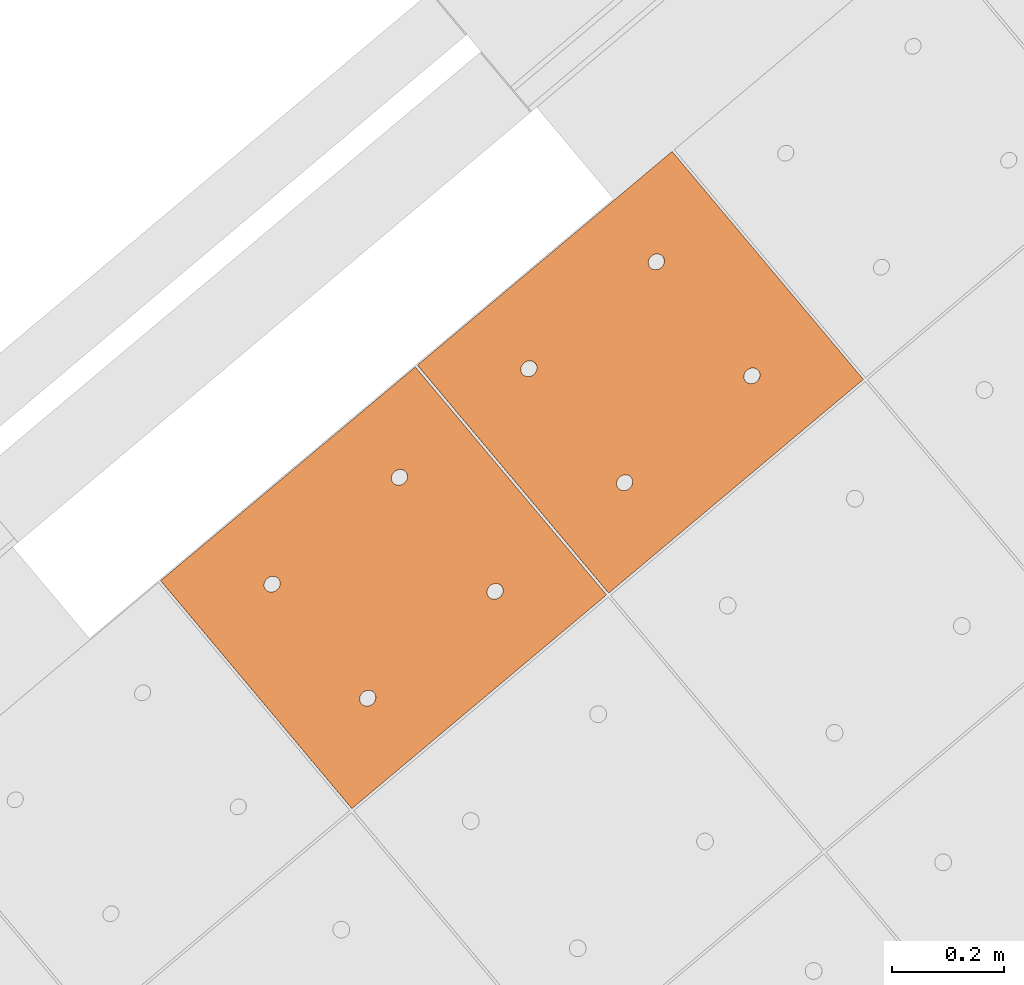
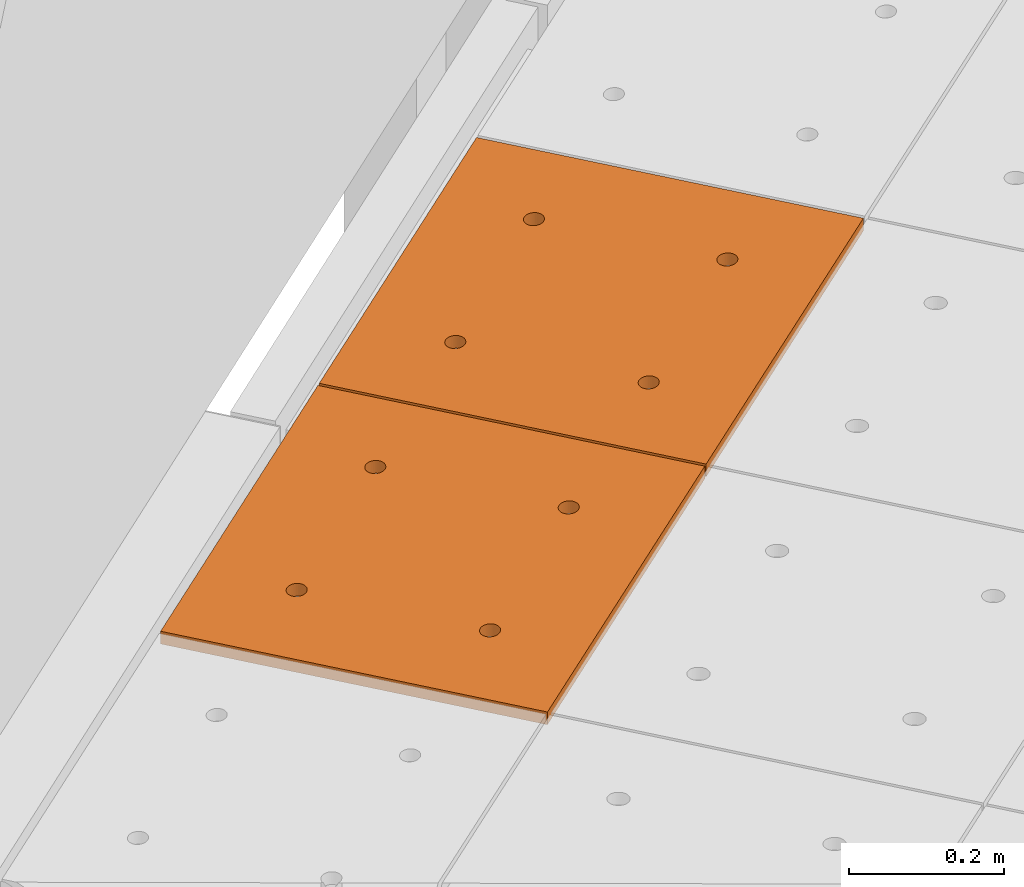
# One storey, part 165 of 338: 2 proxies, 1 element without a shape of its own.
"""IFC2X3 building model written with IfcOpenShell, lengths in millimetres."""

from ifc_helpers import new_model, entity, si_unit, converted_unit, derived_unit, money_unit, direction, frame, origin_with_axes, place, context, subcontext, project, spatial, faceted_brep, source, transform, mapped, material, type_object, type_shapes, element, aggregate, save


model = new_model("IFC2X3")

# Units and contexts
model_context = context("Model", 3, precision=0.01, world=origin_with_axes(), true_north=direction((0.0, 1.0)))
plan_context = context("Plan", 3, precision=0.01, world=origin_with_axes(), true_north=direction((0.0, 1.0)))
body_context = subcontext(model_context, "Body", "Model", "MODEL_VIEW")
ifc_project = project(units=[si_unit("LENGTHUNIT", "METRE", prefix="MILLI"), si_unit("AREAUNIT", "SQUARE_METRE"), si_unit("VOLUMEUNIT", "CUBIC_METRE"), converted_unit("PLANEANGLEUNIT", "DEGREE", entity("IfcPlaneAngleMeasure", 0.0174532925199), si_unit("PLANEANGLEUNIT", "RADIAN"), dimensions=[0, 0, 0, 0, 0, 0, 0]), money_unit("EUR"), converted_unit("TIMEUNIT", "Year", entity("IfcTimeMeasure", 31556926.0), si_unit("TIMEUNIT", "SECOND"), dimensions=[0, 0, 1, 0, 0, 0, 0]), si_unit("MASSUNIT", "GRAM", prefix="KILO"), si_unit("THERMODYNAMICTEMPERATUREUNIT", "DEGREE_CELSIUS"), si_unit("LUMINOUSINTENSITYUNIT", "LUMEN"), si_unit("ENERGYUNIT", "JOULE", prefix="MEGA"), derived_unit("THERMALCONDUCTANCEUNIT", [(si_unit("POWERUNIT", "WATT"), 1), (si_unit("LENGTHUNIT", "METRE"), -1), (si_unit("THERMODYNAMICTEMPERATUREUNIT", "KELVIN"), -1)]), derived_unit("SPECIFICHEATCAPACITYUNIT", [(si_unit("ENERGYUNIT", "JOULE"), 1), (si_unit("MASSUNIT", "GRAM", prefix="KILO"), -1), (si_unit("THERMODYNAMICTEMPERATUREUNIT", "KELVIN"), -1)]), derived_unit("MASSDENSITYUNIT", [(si_unit("MASSUNIT", "GRAM", prefix="KILO"), 1), (si_unit("VOLUMEUNIT", "CUBIC_METRE"), -1)])], contexts=[model_context, plan_context])

# Site, building, storey
site_placement = place(None, origin_with_axes())
site = spatial("IfcSite", under=ifc_project, at=site_placement, Name="Fortuinstraat Woensdrecht", CompositionType="ELEMENT")
building_placement = place(site_placement, origin_with_axes())
building = spatial("IfcBuilding", under=site, at=building_placement, Name="IKC Fortuna", CompositionType="ELEMENT")
storey_placement = place(building_placement, origin_with_axes())
storey = spatial("IfcBuildingStorey", under=building, at=storey_placement, Name="00 begane grond", CompositionType="ELEMENT", Elevation=0.0)

# Covering, proxies
covering_type = type_object("IfcCoveringType", Name="Curtain Wall Type", PredefinedType="CEILING")
covering_placement = place(storey_placement, frame((15863.124366, 4456.31398675, 4619.99995334), z_axis=(0.0, 0.0, 1.0), x_axis=(1.0, 0.0, 0.0)))
covering = element("IfcCovering", 1, at=covering_placement, inside=storey, type_object=covering_type, Name="45_Plafondafwerking_P01", PredefinedType="CEILING")
ifc_material = material(Name="Gipsplaat")
building_element_proxy_type = type_object("IfcBuildingElementProxyType", Name="Main Panel 600 x 538 x 20", PredefinedType="NOTDEFINED")
shared_shape = source(origin_with_axes(), body_context, "Body", "Brep", [
    faceted_brep([(2.49999036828, 64.9082503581, -10.0), (300.000001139, 64.9082503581, -10.0), (300.000001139, 64.9082503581, 10.0), (2.49999036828, 64.9082503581, 10.0), (2.49999036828, 331.20412675, -10.0), (2.49999036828, 597.500003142, -10.0), (300.000001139, 597.500003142, -10.0), (597.50001191, 597.500003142, -10.0), (597.50001191, 331.20412675, -10.0), (597.50001191, 64.9082503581, -10.0), (166.249996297, 465.526747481, -10.0), (165.79422887, 467.840420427, -10.0), (164.896542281, 470.048101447, -10.0), (163.58421228, 472.082711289, -10.0), (161.897113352, 473.882429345, -10.0), (159.886507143, 475.392572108, -10.0), (157.613484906, 476.567254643, -10.0), (155.147111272, 477.370784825, -10.0), (152.562325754, 477.77874779, -10.0), (149.937665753, 477.77874779, -10.0), (147.352880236, 477.370784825, -10.0), (144.8865066, 476.567254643, -10.0), (142.613484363, 475.392572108, -10.0), (140.602878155, 473.882429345, -10.0), (138.915779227, 472.082711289, -10.0), (137.603449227, 470.048101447, -10.0), (136.705762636, 467.840420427, -10.0), (136.249995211, 465.526747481, -10.0), (136.249995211, 464.352064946, -10.0), (136.249995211, 463.177382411, -10.0), (136.705762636, 460.863709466, -10.0), (137.603449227, 458.656028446, -10.0), (138.915779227, 456.621418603, -10.0), (140.602878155, 454.821700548, -10.0), (142.613484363, 453.311557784, -10.0), (144.8865066, 452.13687525, -10.0), (147.352880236, 451.333345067, -10.0), (149.937665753, 450.925382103, -10.0), (152.562325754, 450.925382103, -10.0), (155.147111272, 451.333345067, -10.0), (157.613484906, 452.13687525, -10.0), (159.886507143, 453.311557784, -10.0), (161.897113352, 454.821700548, -10.0), (163.58421228, 456.621418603, -10.0), (164.896542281, 458.656028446, -10.0), (165.79422887, 460.863709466, -10.0), (166.249996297, 463.177382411, -10.0), (463.750007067, 465.526747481, -10.0), (463.294239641, 467.840420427, -10.0), (462.396553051, 470.048101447, -10.0), (461.084223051, 472.082711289, -10.0), (459.397124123, 473.882429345, -10.0), (457.386517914, 475.392572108, -10.0), (455.113495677, 476.567254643, -10.0), (452.647122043, 477.370784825, -10.0), (450.062336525, 477.77874779, -10.0), (447.437676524, 477.77874779, -10.0), (444.852891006, 477.370784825, -10.0), (442.386517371, 476.567254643, -10.0), (440.113495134, 475.392572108, -10.0), (438.102888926, 473.882429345, -10.0), (436.415789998, 472.082711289, -10.0), (435.103459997, 470.048101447, -10.0), (434.205773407, 467.840420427, -10.0), (433.750005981, 465.526747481, -10.0), (433.750005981, 464.352064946, -10.0), (433.750005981, 463.177382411, -10.0), (434.205773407, 460.863709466, -10.0), (435.103459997, 458.656028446, -10.0), (436.415789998, 456.621418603, -10.0), (438.102888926, 454.821700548, -10.0), (440.113495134, 453.311557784, -10.0), (442.386517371, 452.13687525, -10.0), (444.852891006, 451.333345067, -10.0), (447.437676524, 450.925382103, -10.0), (450.062336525, 450.925382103, -10.0), (452.647122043, 451.333345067, -10.0), (455.113495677, 452.13687525, -10.0), (457.386517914, 453.311557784, -10.0), (459.397124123, 454.821700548, -10.0), (461.084223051, 456.621418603, -10.0), (462.396553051, 458.656028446, -10.0), (463.294239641, 460.863709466, -10.0), (463.750007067, 463.177382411, -10.0), (463.750007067, 199.230871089, -10.0), (463.294239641, 201.544544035, -10.0), (462.396553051, 203.752225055, -10.0), (461.084223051, 205.786834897, -10.0), (459.397124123, 207.586552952, -10.0), (457.386517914, 209.096695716, -10.0), (455.113495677, 210.271378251, -10.0), (452.647122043, 211.074908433, -10.0), (450.062336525, 211.482871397, -10.0), (447.437676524, 211.482871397, -10.0), (444.852891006, 211.074908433, -10.0), (442.386517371, 210.271378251, -10.0), (440.113495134, 209.096695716, -10.0), (438.102888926, 207.586552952, -10.0), (436.415789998, 205.786834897, -10.0), (435.103459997, 203.752225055, -10.0), (434.205773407, 201.544544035, -10.0), (433.750005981, 199.230871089, -10.0), (433.750005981, 198.056188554, -10.0), (433.750005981, 196.881506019, -10.0), (434.205773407, 194.567833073, -10.0), (435.103459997, 192.360152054, -10.0), (436.415789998, 190.325542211, -10.0), (438.102888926, 188.525824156, -10.0), (440.113495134, 187.015681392, -10.0), (442.386517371, 185.840998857, -10.0), (444.852891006, 185.037468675, -10.0), (447.437676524, 184.629505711, -10.0), (450.062336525, 184.629505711, -10.0), (452.647122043, 185.037468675, -10.0), (455.113495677, 185.840998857, -10.0), (457.386517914, 187.015681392, -10.0), (459.397124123, 188.525824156, -10.0), (461.084223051, 190.325542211, -10.0), (462.396553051, 192.360152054, -10.0), (463.294239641, 194.567833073, -10.0), (463.750007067, 196.881506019, -10.0), (166.249996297, 199.230871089, -10.0), (165.79422887, 201.544544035, -10.0), (164.896542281, 203.752225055, -10.0), (163.58421228, 205.786834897, -10.0), (161.897113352, 207.586552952, -10.0), (159.886507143, 209.096695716, -10.0), (157.613484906, 210.271378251, -10.0), (155.147111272, 211.074908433, -10.0), (152.562325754, 211.482871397, -10.0), (149.937665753, 211.482871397, -10.0), (147.352880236, 211.074908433, -10.0), (144.8865066, 210.271378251, -10.0), (142.613484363, 209.096695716, -10.0), (140.602878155, 207.586552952, -10.0), (138.915779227, 205.786834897, -10.0), (137.603449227, 203.752225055, -10.0), (136.705762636, 201.544544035, -10.0), (136.249995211, 199.230871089, -10.0), (136.249995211, 198.056188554, -10.0), (136.249995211, 196.881506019, -10.0), (136.705762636, 194.567833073, -10.0), (137.603449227, 192.360152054, -10.0), (138.915779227, 190.325542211, -10.0), (140.602878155, 188.525824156, -10.0), (142.613484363, 187.015681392, -10.0), (144.8865066, 185.840998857, -10.0), (147.352880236, 185.037468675, -10.0), (149.937665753, 184.629505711, -10.0), (152.562325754, 184.629505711, -10.0), (155.147111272, 185.037468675, -10.0), (157.613484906, 185.840998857, -10.0), (159.886507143, 187.015681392, -10.0), (161.897113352, 188.525824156, -10.0), (163.58421228, 190.325542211, -10.0), (164.896542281, 192.360152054, -10.0), (165.79422887, 194.567833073, -10.0), (166.249996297, 196.881506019, -10.0), (597.50001191, 64.9082503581, 10.0), (597.50001191, 331.20412675, 10.0), (597.50001191, 597.500003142, 10.0), (300.000001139, 597.500003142, 10.0), (2.49999036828, 597.500003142, 10.0), (2.49999036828, 331.20412675, 10.0), (166.249996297, 465.526747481, 10.0), (166.249996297, 463.177382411, 10.0), (165.79422887, 460.863709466, 10.0), (164.896542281, 458.656028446, 10.0), (163.58421228, 456.621418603, 10.0), (161.897113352, 454.821700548, 10.0), (159.886507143, 453.311557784, 10.0), (157.613484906, 452.13687525, 10.0), (155.147111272, 451.333345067, 10.0), (152.562325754, 450.925382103, 10.0), (149.937665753, 450.925382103, 10.0), (147.352880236, 451.333345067, 10.0), (144.8865066, 452.13687525, 10.0), (142.613484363, 453.311557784, 10.0), (140.602878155, 454.821700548, 10.0), (138.915779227, 456.621418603, 10.0), (137.603449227, 458.656028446, 10.0), (136.705762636, 460.863709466, 10.0), (136.249995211, 463.177382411, 10.0), (136.249995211, 464.352064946, 10.0), (136.249995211, 465.526747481, 10.0), (136.705762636, 467.840420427, 10.0), (137.603449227, 470.048101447, 10.0), (138.915779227, 472.082711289, 10.0), (140.602878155, 473.882429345, 10.0), (142.613484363, 475.392572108, 10.0), (144.8865066, 476.567254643, 10.0), (147.352880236, 477.370784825, 10.0), (149.937665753, 477.77874779, 10.0), (152.562325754, 477.77874779, 10.0), (155.147111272, 477.370784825, 10.0), (157.613484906, 476.567254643, 10.0), (159.886507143, 475.392572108, 10.0), (161.897113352, 473.882429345, 10.0), (163.58421228, 472.082711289, 10.0), (164.896542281, 470.048101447, 10.0), (165.79422887, 467.840420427, 10.0), (463.750007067, 465.526747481, 10.0), (463.750007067, 463.177382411, 10.0), (463.294239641, 460.863709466, 10.0), (462.396553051, 458.656028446, 10.0), (461.084223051, 456.621418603, 10.0), (459.397124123, 454.821700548, 10.0), (457.386517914, 453.311557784, 10.0), (455.113495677, 452.13687525, 10.0), (452.647122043, 451.333345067, 10.0), (450.062336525, 450.925382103, 10.0), (447.437676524, 450.925382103, 10.0), (444.852891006, 451.333345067, 10.0), (442.386517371, 452.13687525, 10.0), (440.113495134, 453.311557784, 10.0), (438.102888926, 454.821700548, 10.0), (436.415789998, 456.621418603, 10.0), (435.103459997, 458.656028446, 10.0), (434.205773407, 460.863709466, 10.0), (433.750005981, 463.177382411, 10.0), (433.750005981, 464.352064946, 10.0), (433.750005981, 465.526747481, 10.0), (434.205773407, 467.840420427, 10.0), (435.103459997, 470.048101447, 10.0), (436.415789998, 472.082711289, 10.0), (438.102888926, 473.882429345, 10.0), (440.113495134, 475.392572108, 10.0), (442.386517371, 476.567254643, 10.0), (444.852891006, 477.370784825, 10.0), (447.437676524, 477.77874779, 10.0), (450.062336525, 477.77874779, 10.0), (452.647122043, 477.370784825, 10.0), (455.113495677, 476.567254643, 10.0), (457.386517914, 475.392572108, 10.0), (459.397124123, 473.882429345, 10.0), (461.084223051, 472.082711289, 10.0), (462.396553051, 470.048101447, 10.0), (463.294239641, 467.840420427, 10.0), (463.750007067, 199.230871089, 10.0), (463.750007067, 196.881506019, 10.0), (463.294239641, 194.567833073, 10.0), (462.396553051, 192.360152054, 10.0), (461.084223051, 190.325542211, 10.0), (459.397124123, 188.525824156, 10.0), (457.386517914, 187.015681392, 10.0), (455.113495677, 185.840998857, 10.0), (452.647122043, 185.037468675, 10.0), (450.062336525, 184.629505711, 10.0), (447.437676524, 184.629505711, 10.0), (444.852891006, 185.037468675, 10.0), (442.386517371, 185.840998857, 10.0), (440.113495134, 187.015681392, 10.0), (438.102888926, 188.525824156, 10.0), (436.415789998, 190.325542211, 10.0), (435.103459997, 192.360152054, 10.0), (434.205773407, 194.567833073, 10.0), (433.750005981, 196.881506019, 10.0), (433.750005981, 198.056188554, 10.0), (433.750005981, 199.230871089, 10.0), (434.205773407, 201.544544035, 10.0), (435.103459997, 203.752225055, 10.0), (436.415789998, 205.786834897, 10.0), (438.102888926, 207.586552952, 10.0), (440.113495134, 209.096695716, 10.0), (442.386517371, 210.271378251, 10.0), (444.852891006, 211.074908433, 10.0), (447.437676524, 211.482871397, 10.0), (450.062336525, 211.482871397, 10.0), (452.647122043, 211.074908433, 10.0), (455.113495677, 210.271378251, 10.0), (457.386517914, 209.096695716, 10.0), (459.397124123, 207.586552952, 10.0), (461.084223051, 205.786834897, 10.0), (462.396553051, 203.752225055, 10.0), (463.294239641, 201.544544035, 10.0), (166.249996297, 199.230871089, 10.0), (166.249996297, 196.881506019, 10.0), (165.79422887, 194.567833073, 10.0), (164.896542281, 192.360152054, 10.0), (163.58421228, 190.325542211, 10.0), (161.897113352, 188.525824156, 10.0), (159.886507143, 187.015681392, 10.0), (157.613484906, 185.840998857, 10.0), (155.147111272, 185.037468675, 10.0), (152.562325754, 184.629505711, 10.0), (149.937665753, 184.629505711, 10.0), (147.352880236, 185.037468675, 10.0), (144.8865066, 185.840998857, 10.0), (142.613484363, 187.015681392, 10.0), (140.602878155, 188.525824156, 10.0), (138.915779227, 190.325542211, 10.0), (137.603449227, 192.360152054, 10.0), (136.705762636, 194.567833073, 10.0), (136.249995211, 196.881506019, 10.0), (136.249995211, 198.056188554, 10.0), (136.249995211, 199.230871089, 10.0), (136.705762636, 201.544544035, 10.0), (137.603449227, 203.752225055, 10.0), (138.915779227, 205.786834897, 10.0), (140.602878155, 207.586552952, 10.0), (142.613484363, 209.096695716, 10.0), (144.8865066, 210.271378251, 10.0), (147.352880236, 211.074908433, 10.0), (149.937665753, 211.482871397, 10.0), (152.562325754, 211.482871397, 10.0), (155.147111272, 211.074908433, 10.0), (157.613484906, 210.271378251, 10.0), (159.886507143, 209.096695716, 10.0), (161.897113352, 207.586552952, 10.0), (163.58421228, 205.786834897, 10.0), (164.896542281, 203.752225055, 10.0), (165.79422887, 201.544544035, 10.0)], [[[0, 1, 2, 3]], [[0, 4, 5, 6, 7, 8, 9, 1], [10, 11, 12, 13, 14, 15, 16, 17, 18, 19, 20, 21, 22, 23, 24, 25, 26, 27, 28, 29, 30, 31, 32, 33, 34, 35, 36, 37, 38, 39, 40, 41, 42, 43, 44, 45, 46], [47, 48, 49, 50, 51, 52, 53, 54, 55, 56, 57, 58, 59, 60, 61, 62, 63, 64, 65, 66, 67, 68, 69, 70, 71, 72, 73, 74, 75, 76, 77, 78, 79, 80, 81, 82, 83], [84, 85, 86, 87, 88, 89, 90, 91, 92, 93, 94, 95, 96, 97, 98, 99, 100, 101, 102, 103, 104, 105, 106, 107, 108, 109, 110, 111, 112, 113, 114, 115, 116, 117, 118, 119, 120], [121, 122, 123, 124, 125, 126, 127, 128, 129, 130, 131, 132, 133, 134, 135, 136, 137, 138, 139, 140, 141, 142, 143, 144, 145, 146, 147, 148, 149, 150, 151, 152, 153, 154, 155, 156, 157]], [[1, 9, 158, 2]], [[3, 2, 158, 159, 160, 161, 162, 163], [164, 165, 166, 167, 168, 169, 170, 171, 172, 173, 174, 175, 176, 177, 178, 179, 180, 181, 182, 183, 184, 185, 186, 187, 188, 189, 190, 191, 192, 193, 194, 195, 196, 197, 198, 199, 200], [201, 202, 203, 204, 205, 206, 207, 208, 209, 210, 211, 212, 213, 214, 215, 216, 217, 218, 219, 220, 221, 222, 223, 224, 225, 226, 227, 228, 229, 230, 231, 232, 233, 234, 235, 236, 237], [238, 239, 240, 241, 242, 243, 244, 245, 246, 247, 248, 249, 250, 251, 252, 253, 254, 255, 256, 257, 258, 259, 260, 261, 262, 263, 264, 265, 266, 267, 268, 269, 270, 271, 272, 273, 274], [275, 276, 277, 278, 279, 280, 281, 282, 283, 284, 285, 286, 287, 288, 289, 290, 291, 292, 293, 294, 295, 296, 297, 298, 299, 300, 301, 302, 303, 304, 305, 306, 307, 308, 309, 310, 311]], [[4, 0, 3, 163]], [[5, 4, 163, 162]], [[6, 5, 162, 161]], [[7, 6, 161, 160]], [[8, 7, 160, 159]], [[9, 8, 159, 158]], [[11, 10, 164, 200]], [[12, 11, 200, 199]], [[13, 12, 199, 198]], [[14, 13, 198, 197]], [[15, 14, 197, 196]], [[16, 15, 196, 195]], [[17, 16, 195, 194]], [[18, 17, 194, 193]], [[19, 18, 193, 192]], [[20, 19, 192, 191]], [[21, 20, 191, 190]], [[22, 21, 190, 189]], [[23, 22, 189, 188]], [[24, 23, 188, 187]], [[25, 24, 187, 186]], [[26, 25, 186, 185]], [[27, 26, 185, 184]], [[28, 27, 184, 183]], [[29, 28, 183, 182]], [[30, 29, 182, 181]], [[31, 30, 181, 180]], [[32, 31, 180, 179]], [[33, 32, 179, 178]], [[34, 33, 178, 177]], [[35, 34, 177, 176]], [[36, 35, 176, 175]], [[37, 36, 175, 174]], [[38, 37, 174, 173]], [[39, 38, 173, 172]], [[40, 39, 172, 171]], [[41, 40, 171, 170]], [[42, 41, 170, 169]], [[43, 42, 169, 168]], [[44, 43, 168, 167]], [[45, 44, 167, 166]], [[46, 45, 166, 165]], [[10, 46, 165, 164]], [[48, 47, 201, 237]], [[49, 48, 237, 236]], [[50, 49, 236, 235]], [[51, 50, 235, 234]], [[52, 51, 234, 233]], [[53, 52, 233, 232]], [[54, 53, 232, 231]], [[55, 54, 231, 230]], [[56, 55, 230, 229]], [[57, 56, 229, 228]], [[58, 57, 228, 227]], [[59, 58, 227, 226]], [[60, 59, 226, 225]], [[61, 60, 225, 224]], [[62, 61, 224, 223]], [[63, 62, 223, 222]], [[64, 63, 222, 221]], [[65, 64, 221, 220]], [[66, 65, 220, 219]], [[67, 66, 219, 218]], [[68, 67, 218, 217]], [[69, 68, 217, 216]], [[70, 69, 216, 215]], [[71, 70, 215, 214]], [[72, 71, 214, 213]], [[73, 72, 213, 212]], [[74, 73, 212, 211]], [[75, 74, 211, 210]], [[76, 75, 210, 209]], [[77, 76, 209, 208]], [[78, 77, 208, 207]], [[79, 78, 207, 206]], [[80, 79, 206, 205]], [[81, 80, 205, 204]], [[82, 81, 204, 203]], [[83, 82, 203, 202]], [[47, 83, 202, 201]], [[85, 84, 238, 274]], [[86, 85, 274, 273]], [[87, 86, 273, 272]], [[88, 87, 272, 271]], [[89, 88, 271, 270]], [[90, 89, 270, 269]], [[91, 90, 269, 268]], [[92, 91, 268, 267]], [[93, 92, 267, 266]], [[94, 93, 266, 265]], [[95, 94, 265, 264]], [[96, 95, 264, 263]], [[97, 96, 263, 262]], [[98, 97, 262, 261]], [[99, 98, 261, 260]], [[100, 99, 260, 259]], [[101, 100, 259, 258]], [[102, 101, 258, 257]], [[103, 102, 257, 256]], [[104, 103, 256, 255]], [[105, 104, 255, 254]], [[106, 105, 254, 253]], [[107, 106, 253, 252]], [[108, 107, 252, 251]], [[109, 108, 251, 250]], [[110, 109, 250, 249]], [[111, 110, 249, 248]], [[112, 111, 248, 247]], [[113, 112, 247, 246]], [[114, 113, 246, 245]], [[115, 114, 245, 244]], [[116, 115, 244, 243]], [[117, 116, 243, 242]], [[118, 117, 242, 241]], [[119, 118, 241, 240]], [[120, 119, 240, 239]], [[84, 120, 239, 238]], [[122, 121, 275, 311]], [[123, 122, 311, 310]], [[124, 123, 310, 309]], [[125, 124, 309, 308]], [[126, 125, 308, 307]], [[127, 126, 307, 306]], [[128, 127, 306, 305]], [[129, 128, 305, 304]], [[130, 129, 304, 303]], [[131, 130, 303, 302]], [[132, 131, 302, 301]], [[133, 132, 301, 300]], [[134, 133, 300, 299]], [[135, 134, 299, 298]], [[136, 135, 298, 297]], [[137, 136, 297, 296]], [[138, 137, 296, 295]], [[139, 138, 295, 294]], [[140, 139, 294, 293]], [[141, 140, 293, 292]], [[142, 141, 292, 291]], [[143, 142, 291, 290]], [[144, 143, 290, 289]], [[145, 144, 289, 288]], [[146, 145, 288, 287]], [[147, 146, 287, 286]], [[148, 147, 286, 285]], [[149, 148, 285, 284]], [[150, 149, 284, 283]], [[151, 150, 283, 282]], [[152, 151, 282, 281]], [[153, 152, 281, 280]], [[154, 153, 280, 279]], [[155, 154, 279, 278]], [[156, 155, 278, 277]], [[157, 156, 277, 276]], [[121, 157, 276, 275]]]),
])
type_shapes(building_element_proxy_type, [shared_shape])
proxy_1_placement = place(covering_placement, frame((-6896.73536989, 2437.13566674, 20.0027766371), z_axis=(0.0, 0.0, 1.0), x_axis=(0.642787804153, -0.766044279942, 0.0)))
proxy_1 = element("IfcBuildingElementProxy", 2, at=proxy_1_placement, type_object=building_element_proxy_type, material=ifc_material, Name="__600x937 Rockfon Krios", context=body_context, shape_type="MappedRepresentation", body=[
    mapped(shared_shape, transform((-331.204195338, 299.995617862, -1.62150043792), x_axis=(0.0, -0.999985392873, 0.00540500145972), y_axis=(1.0, 0.0, 0.0), z_axis=(0.0, 0.00540500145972, 0.999985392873))),
])
proxy_2_placement = place(covering_placement, frame((-7356.35522403, 2051.46861781, 23.2457775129), z_axis=(0.0, 0.0, 1.0), x_axis=(0.642787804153, -0.766044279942, 0.0)))
proxy_2 = element("IfcBuildingElementProxy", 3, at=proxy_2_placement, type_object=building_element_proxy_type, material=ifc_material, Name="__600x938 Rockfon Krios", context=body_context, shape_type="MappedRepresentation", body=[
    mapped(shared_shape, transform((-331.204195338, 299.995617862, -1.62150043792), x_axis=(0.0, -0.999985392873, 0.00540500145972), y_axis=(1.0, 0.0, 0.0), z_axis=(0.0, 0.00540500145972, 0.999985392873))),
])
aggregate(covering, [proxy_1, proxy_2])

save(model, "model.ifc")
